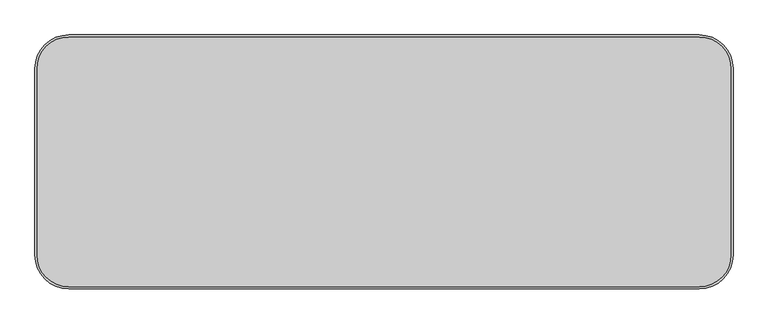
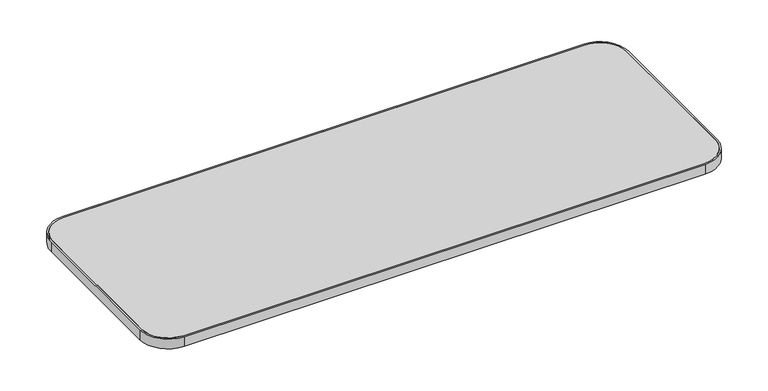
"""IFC4 building model written with IfcOpenShell, lengths in millimetres: furniture geometry, Steelcase - Answer Solution - Universal Table - Straight - 3mm Edge : 24D x 66W."""

from ifc_helpers import new_model, si_unit, point, frame, frame_2d, origin, place, context, project, spatial, polyline, circle_curve, trimmed, segment, composite_curve, outline, extrude, source, transform, mapped, element, save


def furniture_93c865bc(model_context):
    return source(origin(), model_context, "Body", "SweptSolid", [
        extrude(outline(composite_curve([segment(polyline([(5.08, -528.32), (5.08, -81.28)]), True, "CONTINUOUS"), segment(trimmed(circle_curve(frame_2d((81.28, -81.28)), 76.2), [point((5.08, -81.28))], [point((81.28, -5.08))], False, "CARTESIAN"), True, "CONTINUOUS"), segment(polyline([(81.28, -5.08), (1595.12, -5.08)]), True, "CONTINUOUS"), segment(trimmed(circle_curve(frame_2d((1595.12, -81.28)), 76.2), [point((1595.12, -5.08))], [point((1671.32, -81.28))], False, "CARTESIAN"), True, "CONTINUOUS"), segment(polyline([(1671.32, -81.28), (1671.32, -528.32)]), True, "CONTINUOUS"), segment(trimmed(circle_curve(frame_2d((1595.12, -528.32)), 76.2), [point((1671.32, -528.32))], [point((1595.12, -604.52))], False, "CARTESIAN"), True, "CONTINUOUS"), segment(polyline([(1595.12, -604.52), (81.28, -604.52)]), True, "CONTINUOUS"), segment(trimmed(circle_curve(frame_2d((81.28, -528.32)), 76.2), [point((81.28, -604.52))], [point((5.08, -528.32))], False, "CARTESIAN"), True, "CONTINUOUS")], self_intersect=False)), frame((0.0, 0.0, 668.274), z_axis=(0.0, 0.0, 1.0), x_axis=(1.0, 0.0, 0.0)), (0.0, 0.0, 1.0), 30.0990349),
        extrude(outline(composite_curve([segment(polyline([(81.28, 0.0), (1595.12, 0.0)]), True, "CONTINUOUS"), segment(trimmed(circle_curve(frame_2d((1595.12, -81.28)), 81.28), [point((1595.12, 0.0))], [point((1676.4, -81.28))], False, "CARTESIAN"), True, "CONTINUOUS"), segment(polyline([(1676.4, -81.28), (1676.4, -528.32)]), True, "CONTINUOUS"), segment(trimmed(circle_curve(frame_2d((1595.12, -528.32)), 81.28), [point((1676.4, -528.32))], [point((1595.12, -609.6))], False, "CARTESIAN"), True, "CONTINUOUS"), segment(polyline([(1595.12, -609.6), (81.28, -609.6)]), True, "CONTINUOUS"), segment(trimmed(circle_curve(frame_2d((81.28, -528.32)), 81.28), [point((81.28, -609.6))], [point((0.0, -528.32))], False, "CARTESIAN"), True, "CONTINUOUS"), segment(polyline([(0.0, -528.32), (0.0, -81.28)]), True, "CONTINUOUS"), segment(trimmed(circle_curve(frame_2d((81.28, -81.28)), 81.28), [point((0.0, -81.28))], [point((81.28, 0.0))], False, "CARTESIAN"), True, "CONTINUOUS")], self_intersect=False), holes=[composite_curve([segment(trimmed(circle_curve(frame_2d((81.28, -81.28)), 76.2), [point((81.28, -5.08))], [point((5.08, -81.28))], True, "CARTESIAN"), True, "CONTINUOUS"), segment(polyline([(5.08, -81.28), (5.08, -528.32)]), True, "CONTINUOUS"), segment(trimmed(circle_curve(frame_2d((81.28, -528.32)), 76.2), [point((5.08, -528.32))], [point((81.28, -604.52))], True, "CARTESIAN"), True, "CONTINUOUS"), segment(polyline([(81.28, -604.52), (1595.12, -604.52)]), True, "CONTINUOUS"), segment(trimmed(circle_curve(frame_2d((1595.12, -528.32)), 76.2), [point((1595.12, -604.52))], [point((1671.32, -528.32))], True, "CARTESIAN"), True, "CONTINUOUS"), segment(polyline([(1671.32, -528.32), (1671.32, -81.28)]), True, "CONTINUOUS"), segment(trimmed(circle_curve(frame_2d((1595.12, -81.28)), 76.2), [point((1671.32, -81.28))], [point((1595.12, -5.08))], True, "CARTESIAN"), True, "CONTINUOUS"), segment(polyline([(1595.12, -5.08), (81.28, -5.08)]), True, "CONTINUOUS")], self_intersect=False)]), frame((0.0, 0.0, 668.274), z_axis=(0.0, 0.0, 1.0), x_axis=(1.0, 0.0, 0.0)), (0.0, 0.0, 1.0), 30.0990349),
    ])


if __name__ == "__main__":
    model = new_model("IFC4")
    model_context = context("Model", 3, world=origin())
    ifc_project = project(units=[si_unit("LENGTHUNIT", "METRE", prefix="MILLI")], contexts=[model_context])
    site = spatial("IfcSite", under=ifc_project)
    building = spatial("IfcBuilding", under=site)
    placement = place(None, origin())
    furniture_shape = furniture_93c865bc(model_context)
    element("IfcFurniture", 1, ObjectType="Steelcase - Answer Solution - Universal Table - Straight - 3mm Edge : 24D x 66W", at=placement, inside=building, context=model_context, shape_type="MappedRepresentation", body=[
        mapped(furniture_shape, transform((0.0, 0.0, 0.0), x_axis=(1.0, 0.0, 0.0), y_axis=(0.0, 1.0, 0.0), z_axis=(0.0, 0.0, 1.0))),
    ])
    save(model, "model.ifc")
